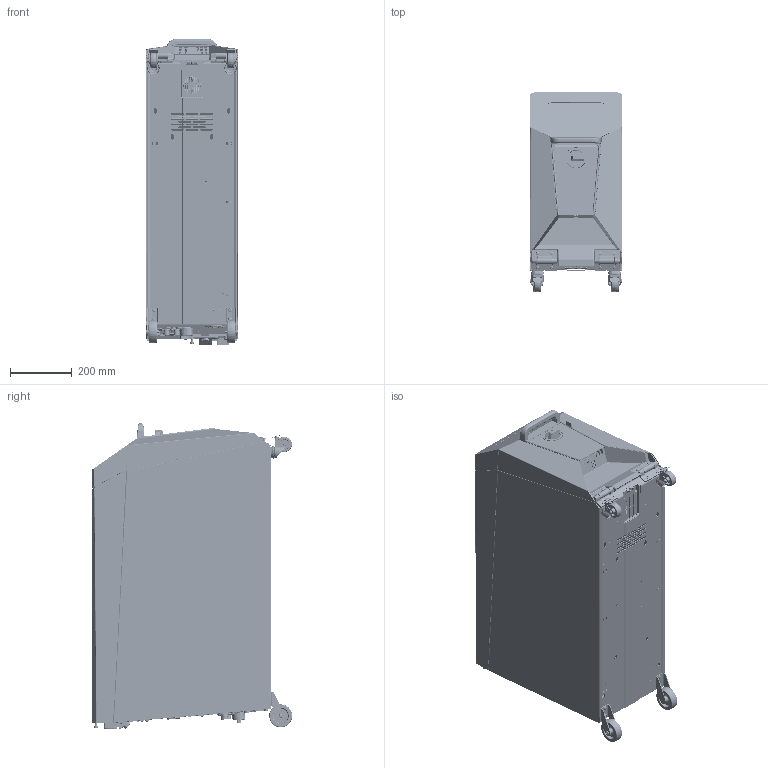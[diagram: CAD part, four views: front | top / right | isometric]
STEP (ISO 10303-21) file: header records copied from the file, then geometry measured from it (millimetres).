
FILE_DESCRIPTION (( 'STEP AP214' ), '1' );
FILE_NAME ('K8521-1-H Stand 2023-07-09.STEP', '2023-11-16T07:21:44', ( '' ), ( '' ), 'SwSTEP 2.0', 'SolidWorks 2023', '' );
FILE_SCHEMA (( 'AUTOMOTIVE_DESIGN' ));
Length unit declared in the file: millimetre
Products named in the file (1): K8521-1-H Stand 2023-07-09
Bounding box: 299.81 x 649.74 x 990.94 mm (x, y, z)
Surface area: 9708864.6 mm2 (no closed solid volume)
Topology: 0 solids, 428 shells, 30719 faces, 80620 edges, 51147 vertices
Faces by surface type: plane 12122, cylinder 10419, bspline 4816, cone 1580, torus 1289, sphere 493
Entity records: 1180307 total; most frequent: CARTESIAN_POINT 468799, ORIENTED_EDGE 160420, DIRECTION 127269, EDGE_CURVE 80252, VERTEX_POINT 51128, AXIS2_PLACEMENT_3D 44804, VECTOR 37661, LINE 37661
